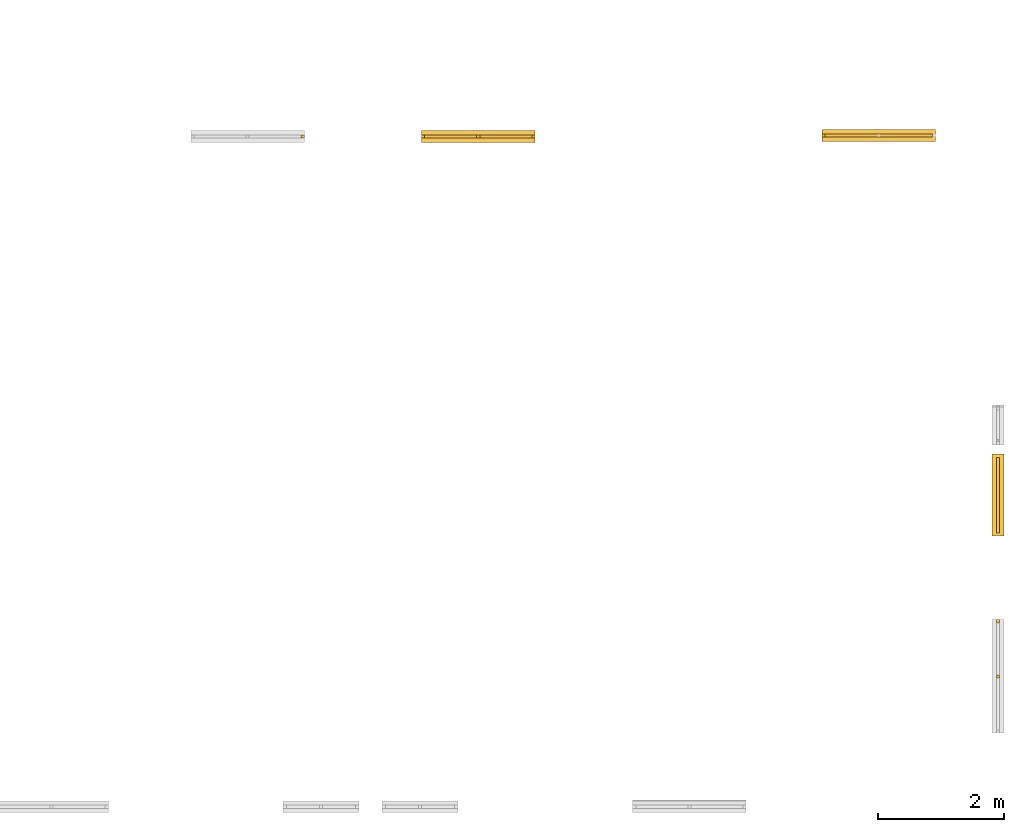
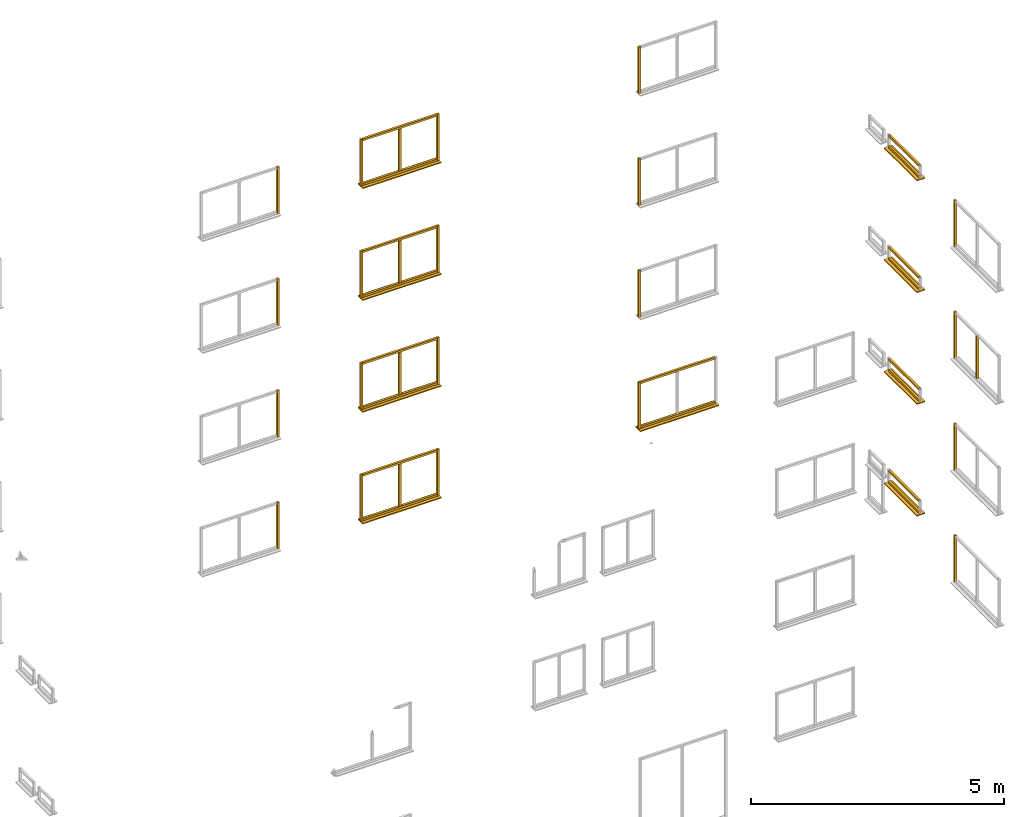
# Not in any storey, part 16 of 22: 52 windows.
"""IFC2X3 model written with IfcOpenShell, lengths in metres."""

from ifc_helpers import new_model, si_unit, frame, origin, place, context, project, faceted_brep, element, save


model = new_model("IFC2X3")

# Units and contexts
model_context = context("Model", 3, precision=1e-06, world=origin())
ifc_project = project(units=[si_unit("LENGTHUNIT", "METRE"), si_unit("PLANEANGLEUNIT", "RADIAN")], contexts=[model_context])

# Windows
placement = place(None, origin())
window_1_placement = place(placement, frame((59.668499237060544, -2.754837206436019, 1.025), z_axis=(0.0, 0.0, 1.0), x_axis=(0.0, 1.0, 0.0)))
element("IfcWindow", 1, at=window_1_placement, Name="rightFrame", context=model_context, shape_type="Brep", body=[
    faceted_brep([(0.0, 0.05, 0.0), (0.05, 0.05, 0.0), (0.05, 0.0, 0.0), (0.0, 0.0, 0.0), (0.05, 0.0, 1.125), (0.05, 0.05, 1.125), (0.0, 0.05, 1.125), (0.0, 0.0, 1.125), (0.0, 0.05, 0.0), (0.0, 0.0, 0.0), (0.0, 0.0, 1.125), (0.0, 0.05, 1.125), (0.05, 0.05, 0.0), (0.0, 0.05, 0.0), (0.0, 0.05, 1.125), (0.05, 0.05, 1.125), (0.05, 0.0, 0.0), (0.05, 0.05, 0.0), (0.05, 0.05, 1.125), (0.05, 0.0, 1.125), (0.0, 0.0, 0.0), (0.05, 0.0, 0.0), (0.05, 0.0, 1.125), (0.0, 0.0, 1.125)], [[[0, 1, 2, 3]], [[4, 5, 6, 7]], [[8, 9, 10, 11]], [[12, 13, 14, 15]], [[16, 17, 18, 19]], [[20, 21, 22, 23]]]),
])
for number, where, z_axis, x_axis, name in (
    (2, (59.668499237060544, -1.329837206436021, 4.800000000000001), (0.0, 0.0, 1.0), (0.0, 1.0, 0.0), "topFrame"),
    (3, (59.668499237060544, -1.329837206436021, 4.535000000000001), (0.0, 0.0, 1.0), (0.0, 1.0, 0.0), "bottomFrame"),
):
    element("IfcWindow", number, at=place(placement, frame(where, z_axis=z_axis, x_axis=x_axis)), Name=name, context=model_context, shape_type="Brep", body=[
        faceted_brep([(0.0, 0.05, 0.0), (1.2, 0.05, 0.0), (1.2, 0.0, 0.0), (0.0, 0.0, 0.0), (1.2, 0.0, 0.05), (1.2, 0.05, 0.05), (0.0, 0.05, 0.05), (0.0, 0.0, 0.05), (0.0, 0.05, 0.0), (0.0, 0.0, 0.0), (0.0, 0.0, 0.05), (0.0, 0.05, 0.05), (1.2, 0.05, 0.0), (0.0, 0.05, 0.0), (0.0, 0.05, 0.05), (1.2, 0.05, 0.05), (1.2, 0.0, 0.0), (1.2, 0.05, 0.0), (1.2, 0.05, 0.05), (1.2, 0.0, 0.05), (0.0, 0.0, 0.0), (1.2, 0.0, 0.0), (1.2, 0.0, 0.05), (0.0, 0.0, 0.05)], [[[0, 1, 2, 3]], [[4, 5, 6, 7]], [[8, 9, 10, 11]], [[12, 13, 14, 15]], [[16, 17, 18, 19]], [[20, 21, 22, 23]]]),
    ])
for number, where, z_axis, x_axis, name in (
    (4, (50.54459868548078, 4.988577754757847, 3.725), (0.0, 0.0, 1.0), (-1.0, 0.0, 0.0), "rightFrame"),
    (5, (59.668499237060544, -2.754837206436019, 3.725), (0.0, 0.0, 1.0), (0.0, 1.0, 0.0), "rightFrame"),
):
    element("IfcWindow", number, at=place(placement, frame(where, z_axis=z_axis, x_axis=x_axis)), Name=name, context=model_context, shape_type="Brep", body=[
        faceted_brep([(0.0, 0.05, 0.0), (0.05, 0.05, 0.0), (0.05, 0.0, 0.0), (0.0, 0.0, 0.0), (0.05, 0.0, 1.125), (0.05, 0.05, 1.125), (0.0, 0.05, 1.125), (0.0, 0.0, 1.125), (0.0, 0.05, 0.0), (0.0, 0.0, 0.0), (0.0, 0.0, 1.125), (0.0, 0.05, 1.125), (0.05, 0.05, 0.0), (0.0, 0.05, 0.0), (0.0, 0.05, 1.125), (0.05, 0.05, 1.125), (0.05, 0.0, 0.0), (0.05, 0.05, 0.0), (0.05, 0.05, 1.125), (0.05, 0.0, 1.125), (0.0, 0.0, 0.0), (0.05, 0.0, 0.0), (0.05, 0.0, 1.125), (0.0, 0.0, 1.125)], [[[0, 1, 2, 3]], [[4, 5, 6, 7]], [[8, 9, 10, 11]], [[12, 13, 14, 15]], [[16, 17, 18, 19]], [[20, 21, 22, 23]]]),
    ])
window_2_placement = place(placement, frame((59.736999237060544, -1.379837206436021, 1.81), z_axis=(0.0, 0.0, 1.0), x_axis=(0.0, 1.0, 0.0)))
element("IfcWindow", 6, at=window_2_placement, Name="windowSill", context=model_context, shape_type="Brep", body=[
    faceted_brep([(0.0, 0.186999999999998, 0.0), (1.3, 0.186999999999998, 0.0), (1.3, 0.0, 0.0), (0.0, 0.0, 0.0), (1.3, 0.0, 0.025), (1.3, 0.186999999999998, 0.025), (0.0, 0.186999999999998, 0.025), (0.0, 0.0, 0.025), (0.0, 0.186999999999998, 0.0), (0.0, 0.0, 0.0), (0.0, 0.0, 0.025), (0.0, 0.186999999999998, 0.025), (1.3, 0.186999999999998, 0.0), (0.0, 0.186999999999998, 0.0), (0.0, 0.186999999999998, 0.025), (1.3, 0.186999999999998, 0.025), (1.3, 0.0, 0.0), (1.3, 0.186999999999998, 0.0), (1.3, 0.186999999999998, 0.025), (1.3, 0.0, 0.025), (0.0, 0.0, 0.0), (1.3, 0.0, 0.0), (1.3, 0.0, 0.025), (0.0, 0.0, 0.025)], [[[0, 1, 2, 3]], [[4, 5, 6, 7]], [[8, 9, 10, 11]], [[12, 13, 14, 15]], [[16, 17, 18, 19]], [[20, 21, 22, 23]]]),
])
for number, where, z_axis, x_axis, name in (
    (7, (59.668499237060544, -1.329837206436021, 2.1), (0.0, 0.0, 1.0), (0.0, 1.0, 0.0), "topFrame"),
    (8, (59.668499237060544, -1.329837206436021, 1.835), (0.0, 0.0, 1.0), (0.0, 1.0, 0.0), "bottomFrame"),
):
    element("IfcWindow", number, at=place(placement, frame(where, z_axis=z_axis, x_axis=x_axis)), Name=name, context=model_context, shape_type="Brep", body=[
        faceted_brep([(0.0, 0.05, 0.0), (1.2, 0.05, 0.0), (1.2, 0.0, 0.0), (0.0, 0.0, 0.0), (1.2, 0.0, 0.05), (1.2, 0.05, 0.05), (0.0, 0.05, 0.05), (0.0, 0.0, 0.05), (0.0, 0.05, 0.0), (0.0, 0.0, 0.0), (0.0, 0.0, 0.05), (0.0, 0.05, 0.05), (1.2, 0.05, 0.0), (0.0, 0.05, 0.0), (0.0, 0.05, 0.05), (1.2, 0.05, 0.05), (1.2, 0.0, 0.0), (1.2, 0.05, 0.0), (1.2, 0.05, 0.05), (1.2, 0.0, 0.05), (0.0, 0.0, 0.0), (1.2, 0.0, 0.0), (1.2, 0.0, 0.05), (0.0, 0.0, 0.05)], [[[0, 1, 2, 3]], [[4, 5, 6, 7]], [[8, 9, 10, 11]], [[12, 13, 14, 15]], [[16, 17, 18, 19]], [[20, 21, 22, 23]]]),
    ])
window_3_placement = place(placement, frame((59.668499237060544, -2.754837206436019, 6.425000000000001), z_axis=(0.0, 0.0, 1.0), x_axis=(0.0, 1.0, 0.0)))
element("IfcWindow", 9, at=window_3_placement, Name="rightFrame", context=model_context, shape_type="Brep", body=[
    faceted_brep([(0.0, 0.05, 0.0), (0.05, 0.05, 0.0), (0.05, 0.0, 0.0), (0.0, 0.0, 0.0), (0.05, 0.0, 1.125), (0.05, 0.05, 1.125), (0.0, 0.05, 1.125), (0.0, 0.0, 1.125), (0.0, 0.05, 0.0), (0.0, 0.0, 0.0), (0.0, 0.0, 1.125), (0.0, 0.05, 1.125), (0.05, 0.05, 0.0), (0.0, 0.05, 0.0), (0.0, 0.05, 1.125), (0.05, 0.05, 1.125), (0.05, 0.0, 0.0), (0.05, 0.05, 0.0), (0.05, 0.05, 1.125), (0.05, 0.0, 1.125), (0.0, 0.0, 0.0), (0.05, 0.0, 0.0), (0.05, 0.0, 1.125), (0.0, 0.0, 1.125)], [[[0, 1, 2, 3]], [[4, 5, 6, 7]], [[8, 9, 10, 11]], [[12, 13, 14, 15]], [[16, 17, 18, 19]], [[20, 21, 22, 23]]]),
])
window_4_placement = place(placement, frame((59.736999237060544, -1.379837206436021, 4.510000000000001), z_axis=(0.0, 0.0, 1.0), x_axis=(0.0, 1.0, 0.0)))
element("IfcWindow", 10, at=window_4_placement, Name="windowSill", context=model_context, shape_type="Brep", body=[
    faceted_brep([(0.0, 0.186999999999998, 0.0), (1.3, 0.186999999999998, 0.0), (1.3, 0.0, 0.0), (0.0, 0.0, 0.0), (1.3, 0.0, 0.025), (1.3, 0.186999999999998, 0.025), (0.0, 0.186999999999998, 0.025), (0.0, 0.0, 0.025), (0.0, 0.186999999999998, 0.0), (0.0, 0.0, 0.0), (0.0, 0.0, 0.025), (0.0, 0.186999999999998, 0.025), (1.3, 0.186999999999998, 0.0), (0.0, 0.186999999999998, 0.0), (0.0, 0.186999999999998, 0.025), (1.3, 0.186999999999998, 0.025), (1.3, 0.0, 0.0), (1.3, 0.186999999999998, 0.0), (1.3, 0.186999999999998, 0.025), (1.3, 0.0, 0.025), (0.0, 0.0, 0.0), (1.3, 0.0, 0.0), (1.3, 0.0, 0.025), (0.0, 0.0, 0.025)], [[[0, 1, 2, 3]], [[4, 5, 6, 7]], [[8, 9, 10, 11]], [[12, 13, 14, 15]], [[16, 17, 18, 19]], [[20, 21, 22, 23]]]),
])
for number, where, z_axis, x_axis, name in (
    (11, (58.598999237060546, 5.001577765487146, 1.025), (0.0, 0.0, 1.0), (-1.0, 0.0, 0.0), "bottomFrame"),
    (12, (58.598999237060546, 5.001577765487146, 2.1), (0.0, 0.0, 1.0), (-1.0, 0.0, 0.0), "topFrame"),
):
    element("IfcWindow", number, at=place(placement, frame(where, z_axis=z_axis, x_axis=x_axis)), Name=name, context=model_context, shape_type="Brep", body=[
        faceted_brep([(0.0, 0.05, 0.0), (1.7, 0.05, 0.0), (1.7, 0.0, 0.0), (0.0, 0.0, 0.0), (1.7, 0.0, 0.05), (1.7, 0.05, 0.05), (0.0, 0.05, 0.05), (0.0, 0.0, 0.05), (0.0, 0.05, 0.0), (0.0, 0.0, 0.0), (0.0, 0.0, 0.05), (0.0, 0.05, 0.05), (1.7, 0.05, 0.0), (0.0, 0.05, 0.0), (0.0, 0.05, 0.05), (1.7, 0.05, 0.05), (1.7, 0.0, 0.0), (1.7, 0.05, 0.0), (1.7, 0.05, 0.05), (1.7, 0.0, 0.05), (0.0, 0.0, 0.0), (1.7, 0.0, 0.0), (1.7, 0.0, 0.05), (0.0, 0.0, 0.05)], [[[0, 1, 2, 3]], [[4, 5, 6, 7]], [[8, 9, 10, 11]], [[12, 13, 14, 15]], [[16, 17, 18, 19]], [[20, 21, 22, 23]]]),
    ])
window_5_placement = place(placement, frame((56.89899923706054, 5.001577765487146, 1.025), z_axis=(0.0, 0.0, 1.0), x_axis=(-1.0, 0.0, 0.0)))
element("IfcWindow", 13, at=window_5_placement, Name="rightFrame", context=model_context, shape_type="Brep", body=[
    faceted_brep([(0.0, 0.05, 0.0), (0.05, 0.05, 0.0), (0.05, 0.0, 0.0), (0.0, 0.0, 0.0), (0.05, 0.0, 1.125), (0.05, 0.05, 1.125), (0.0, 0.05, 1.125), (0.0, 0.0, 1.125), (0.0, 0.05, 0.0), (0.0, 0.0, 0.0), (0.0, 0.0, 1.125), (0.0, 0.05, 1.125), (0.05, 0.05, 0.0), (0.0, 0.05, 0.0), (0.0, 0.05, 1.125), (0.05, 0.05, 1.125), (0.05, 0.0, 0.0), (0.05, 0.05, 0.0), (0.05, 0.05, 1.125), (0.05, 0.0, 1.125), (0.0, 0.0, 0.0), (0.05, 0.0, 0.0), (0.05, 0.0, 1.125), (0.0, 0.0, 1.125)], [[[0, 1, 2, 3]], [[4, 5, 6, 7]], [[8, 9, 10, 11]], [[12, 13, 14, 15]], [[16, 17, 18, 19]], [[20, 21, 22, 23]]]),
])
window_6_placement = place(placement, frame((58.64899923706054, 5.070077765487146, 1.0), z_axis=(0.0, 0.0, 1.0), x_axis=(-1.0, 0.0, 0.0)))
element("IfcWindow", 14, at=window_6_placement, Name="windowSill", context=model_context, shape_type="Brep", body=[
    faceted_brep([(0.0, 0.187, 0.0), (1.8, 0.187, 0.0), (1.8, 0.0, 0.0), (0.0, 0.0, 0.0), (1.8, 0.0, 0.025), (1.8, 0.187, 0.025), (0.0, 0.187, 0.025), (0.0, 0.0, 0.025), (0.0, 0.187, 0.0), (0.0, 0.0, 0.0), (0.0, 0.0, 0.025), (0.0, 0.187, 0.025), (1.8, 0.187, 0.0), (0.0, 0.187, 0.0), (0.0, 0.187, 0.025), (1.8, 0.187, 0.025), (1.8, 0.0, 0.0), (1.8, 0.187, 0.0), (1.8, 0.187, 0.025), (1.8, 0.0, 0.025), (0.0, 0.0, 0.0), (1.8, 0.0, 0.0), (1.8, 0.0, 0.025), (0.0, 0.0, 0.025)], [[[0, 1, 2, 3]], [[4, 5, 6, 7]], [[8, 9, 10, 11]], [[12, 13, 14, 15]], [[16, 17, 18, 19]], [[20, 21, 22, 23]]]),
])
window_7_placement = place(placement, frame((51.41959868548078, 4.988577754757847, 9.175), z_axis=(0.0, 0.0, 1.0), x_axis=(-1.0, 0.0, 0.0)))
element("IfcWindow", 15, at=window_7_placement, Name="verticalBar", context=model_context, shape_type="Brep", body=[
    faceted_brep([(0.0, 0.05, 0.0), (0.05, 0.05, 0.0), (0.05, 0.0, 0.0), (0.0, 0.0, 0.0), (0.05, 0.0, 1.025), (0.05, 0.05, 1.025), (0.0, 0.05, 1.025), (0.0, 0.0, 1.025), (0.0, 0.05, 0.0), (0.0, 0.0, 0.0), (0.0, 0.0, 1.025), (0.0, 0.05, 1.025), (0.05, 0.05, 0.0), (0.0, 0.05, 0.0), (0.0, 0.05, 1.025), (0.05, 0.05, 1.025), (0.05, 0.0, 0.0), (0.05, 0.05, 0.0), (0.05, 0.05, 1.025), (0.05, 0.0, 1.025), (0.0, 0.0, 0.0), (0.05, 0.0, 0.0), (0.05, 0.0, 1.025), (0.0, 0.0, 1.025)], [[[0, 1, 2, 3]], [[4, 5, 6, 7]], [[8, 9, 10, 11]], [[12, 13, 14, 15]], [[16, 17, 18, 19]], [[20, 21, 22, 23]]]),
])
window_8_placement = place(placement, frame((56.89899923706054, 5.001577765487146, 3.725), z_axis=(0.0, 0.0, 1.0), x_axis=(-1.0, 0.0, 0.0)))
element("IfcWindow", 16, at=window_8_placement, Name="rightFrame", context=model_context, shape_type="Brep", body=[
    faceted_brep([(0.0, 0.05, 0.0), (0.05, 0.05, 0.0), (0.05, 0.0, 0.0), (0.0, 0.0, 0.0), (0.05, 0.0, 1.125), (0.05, 0.05, 1.125), (0.0, 0.05, 1.125), (0.0, 0.0, 1.125), (0.0, 0.05, 0.0), (0.0, 0.0, 0.0), (0.0, 0.0, 1.125), (0.0, 0.05, 1.125), (0.05, 0.05, 0.0), (0.0, 0.05, 0.0), (0.0, 0.05, 1.125), (0.05, 0.05, 1.125), (0.05, 0.0, 0.0), (0.05, 0.05, 0.0), (0.05, 0.05, 1.125), (0.05, 0.0, 1.125), (0.0, 0.0, 0.0), (0.05, 0.0, 0.0), (0.05, 0.0, 1.125), (0.0, 0.0, 1.125)], [[[0, 1, 2, 3]], [[4, 5, 6, 7]], [[8, 9, 10, 11]], [[12, 13, 14, 15]], [[16, 17, 18, 19]], [[20, 21, 22, 23]]]),
])
window_9_placement = place(placement, frame((59.736999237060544, -1.379837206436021, 9.910000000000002), z_axis=(0.0, 0.0, 1.0), x_axis=(0.0, 1.0, 0.0)))
element("IfcWindow", 17, at=window_9_placement, Name="windowSill", context=model_context, shape_type="Brep", body=[
    faceted_brep([(0.0, 0.186999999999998, 0.0), (1.3, 0.186999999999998, 0.0), (1.3, 0.0, 0.0), (0.0, 0.0, 0.0), (1.3, 0.0, 0.025), (1.3, 0.186999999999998, 0.025), (0.0, 0.186999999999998, 0.025), (0.0, 0.0, 0.025), (0.0, 0.186999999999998, 0.0), (0.0, 0.0, 0.0), (0.0, 0.0, 0.025), (0.0, 0.186999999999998, 0.025), (1.3, 0.186999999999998, 0.0), (0.0, 0.186999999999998, 0.0), (0.0, 0.186999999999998, 0.025), (1.3, 0.186999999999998, 0.025), (1.3, 0.0, 0.0), (1.3, 0.186999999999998, 0.0), (1.3, 0.186999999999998, 0.025), (1.3, 0.0, 0.025), (0.0, 0.0, 0.0), (1.3, 0.0, 0.0), (1.3, 0.0, 0.025), (0.0, 0.0, 0.025)], [[[0, 1, 2, 3]], [[4, 5, 6, 7]], [[8, 9, 10, 11]], [[12, 13, 14, 15]], [[16, 17, 18, 19]], [[20, 21, 22, 23]]]),
])
window_10_placement = place(placement, frame((56.89899923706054, 5.001577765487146, 6.425000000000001), z_axis=(0.0, 0.0, 1.0), x_axis=(-1.0, 0.0, 0.0)))
element("IfcWindow", 18, at=window_10_placement, Name="rightFrame", context=model_context, shape_type="Brep", body=[
    faceted_brep([(0.0, 0.05, 0.0), (0.05, 0.05, 0.0), (0.05, 0.0, 0.0), (0.0, 0.0, 0.0), (0.05, 0.0, 1.125), (0.05, 0.05, 1.125), (0.0, 0.05, 1.125), (0.0, 0.0, 1.125), (0.0, 0.05, 0.0), (0.0, 0.0, 0.0), (0.0, 0.0, 1.125), (0.0, 0.05, 1.125), (0.05, 0.05, 0.0), (0.0, 0.05, 0.0), (0.0, 0.05, 1.125), (0.05, 0.05, 1.125), (0.05, 0.0, 0.0), (0.05, 0.05, 0.0), (0.05, 0.05, 1.125), (0.05, 0.0, 1.125), (0.0, 0.0, 0.0), (0.05, 0.0, 0.0), (0.05, 0.0, 1.125), (0.0, 0.0, 1.125)], [[[0, 1, 2, 3]], [[4, 5, 6, 7]], [[8, 9, 10, 11]], [[12, 13, 14, 15]], [[16, 17, 18, 19]], [[20, 21, 22, 23]]]),
])
for number, where, z_axis, x_axis, name in (
    (19, (59.668499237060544, -1.32983720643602, 10.200000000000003), (0.0, 0.0, 1.0), (0.0, 1.0, 0.0), "topFrame"),
    (20, (59.668499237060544, -1.32983720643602, 9.935000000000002), (0.0, 0.0, 1.0), (0.0, 1.0, 0.0), "bottomFrame"),
):
    element("IfcWindow", number, at=place(placement, frame(where, z_axis=z_axis, x_axis=x_axis)), Name=name, context=model_context, shape_type="Brep", body=[
        faceted_brep([(0.0, 0.05, 0.0), (1.2, 0.05, 0.0), (1.2, 0.0, 0.0), (0.0, 0.0, 0.0), (1.2, 0.0, 0.05), (1.2, 0.05, 0.05), (0.0, 0.05, 0.05), (0.0, 0.0, 0.05), (0.0, 0.05, 0.0), (0.0, 0.0, 0.0), (0.0, 0.0, 0.05), (0.0, 0.05, 0.05), (1.2, 0.05, 0.0), (0.0, 0.05, 0.0), (0.0, 0.05, 0.05), (1.2, 0.05, 0.05), (1.2, 0.0, 0.0), (1.2, 0.05, 0.0), (1.2, 0.05, 0.05), (1.2, 0.0, 0.05), (0.0, 0.0, 0.0), (1.2, 0.0, 0.0), (1.2, 0.0, 0.05), (0.0, 0.0, 0.05)], [[[0, 1, 2, 3]], [[4, 5, 6, 7]], [[8, 9, 10, 11]], [[12, 13, 14, 15]], [[16, 17, 18, 19]], [[20, 21, 22, 23]]]),
    ])
for number, where, z_axis, x_axis, name in (
    (21, (56.89899923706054, 5.001577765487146, 9.125000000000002), (0.0, 0.0, 1.0), (-1.0, 0.0, 0.0), "rightFrame"),
    (22, (59.668499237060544, -2.754837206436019, 9.125000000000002), (0.0, 0.0, 1.0), (0.0, 1.0, 0.0), "rightFrame"),
    (23, (48.634598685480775, 4.988577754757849, 1.025), (0.0, 0.0, 1.0), (-1.0, 0.0, 0.0), "leftFrame"),
):
    element("IfcWindow", number, at=place(placement, frame(where, z_axis=z_axis, x_axis=x_axis)), Name=name, context=model_context, shape_type="Brep", body=[
        faceted_brep([(0.0, 0.05, 0.0), (0.05, 0.05, 0.0), (0.05, 0.0, 0.0), (0.0, 0.0, 0.0), (0.05, 0.0, 1.125), (0.05, 0.05, 1.125), (0.0, 0.05, 1.125), (0.0, 0.0, 1.125), (0.0, 0.05, 0.0), (0.0, 0.0, 0.0), (0.0, 0.0, 1.125), (0.0, 0.05, 1.125), (0.05, 0.05, 0.0), (0.0, 0.05, 0.0), (0.0, 0.05, 1.125), (0.05, 0.05, 1.125), (0.05, 0.0, 0.0), (0.05, 0.05, 0.0), (0.05, 0.05, 1.125), (0.05, 0.0, 1.125), (0.0, 0.0, 0.0), (0.05, 0.0, 0.0), (0.05, 0.0, 1.125), (0.0, 0.0, 1.125)], [[[0, 1, 2, 3]], [[4, 5, 6, 7]], [[8, 9, 10, 11]], [[12, 13, 14, 15]], [[16, 17, 18, 19]], [[20, 21, 22, 23]]]),
    ])
for number, where, z_axis, x_axis, name in (
    (24, (52.24459868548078, 4.988577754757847, 1.025), (0.0, 0.0, 1.0), (-1.0, 0.0, 0.0), "bottomFrame"),
    (25, (52.24459868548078, 4.988577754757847, 2.1), (0.0, 0.0, 1.0), (-1.0, 0.0, 0.0), "topFrame"),
):
    element("IfcWindow", number, at=place(placement, frame(where, z_axis=z_axis, x_axis=x_axis)), Name=name, context=model_context, shape_type="Brep", body=[
        faceted_brep([(0.0, 0.05, 0.0), (1.7, 0.05, 0.0), (1.7, 0.0, 0.0), (0.0, 0.0, 0.0), (1.7, 0.0, 0.05), (1.7, 0.05, 0.05), (0.0, 0.05, 0.05), (0.0, 0.0, 0.05), (0.0, 0.05, 0.0), (0.0, 0.0, 0.0), (0.0, 0.0, 0.05), (0.0, 0.05, 0.05), (1.7, 0.05, 0.0), (0.0, 0.05, 0.0), (0.0, 0.05, 0.05), (1.7, 0.05, 0.05), (1.7, 0.0, 0.0), (1.7, 0.05, 0.0), (1.7, 0.05, 0.05), (1.7, 0.0, 0.05), (0.0, 0.0, 0.0), (1.7, 0.0, 0.0), (1.7, 0.0, 0.05), (0.0, 0.0, 0.05)], [[[0, 1, 2, 3]], [[4, 5, 6, 7]], [[8, 9, 10, 11]], [[12, 13, 14, 15]], [[16, 17, 18, 19]], [[20, 21, 22, 23]]]),
    ])
for number, where, z_axis, x_axis, name in (
    (26, (52.29459868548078, 4.988577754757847, 1.025), (0.0, 0.0, 1.0), (-1.0, 0.0, 0.0), "leftFrame"),
    (27, (50.54459868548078, 4.988577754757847, 1.025), (0.0, 0.0, 1.0), (-1.0, 0.0, 0.0), "rightFrame"),
):
    element("IfcWindow", number, at=place(placement, frame(where, z_axis=z_axis, x_axis=x_axis)), Name=name, context=model_context, shape_type="Brep", body=[
        faceted_brep([(0.0, 0.05, 0.0), (0.05, 0.05, 0.0), (0.05, 0.0, 0.0), (0.0, 0.0, 0.0), (0.05, 0.0, 1.125), (0.05, 0.05, 1.125), (0.0, 0.05, 1.125), (0.0, 0.0, 1.125), (0.0, 0.05, 0.0), (0.0, 0.0, 0.0), (0.0, 0.0, 1.125), (0.0, 0.05, 1.125), (0.05, 0.05, 0.0), (0.0, 0.05, 0.0), (0.0, 0.05, 1.125), (0.05, 0.05, 1.125), (0.05, 0.0, 0.0), (0.05, 0.05, 0.0), (0.05, 0.05, 1.125), (0.05, 0.0, 1.125), (0.0, 0.0, 0.0), (0.05, 0.0, 0.0), (0.05, 0.0, 1.125), (0.0, 0.0, 1.125)], [[[0, 1, 2, 3]], [[4, 5, 6, 7]], [[8, 9, 10, 11]], [[12, 13, 14, 15]], [[16, 17, 18, 19]], [[20, 21, 22, 23]]]),
    ])
window_11_placement = place(placement, frame((52.29459868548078, 5.057077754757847, 1.0), z_axis=(0.0, 0.0, 1.0), x_axis=(-1.0, 0.0, 0.0)))
element("IfcWindow", 28, at=window_11_placement, Name="windowSill", context=model_context, shape_type="Brep", body=[
    faceted_brep([(0.0, 0.187, 0.0), (1.8, 0.187, 0.0), (1.8, 0.0, 0.0), (0.0, 0.0, 0.0), (1.8, 0.0, 0.025), (1.8, 0.187, 0.025), (0.0, 0.187, 0.025), (0.0, 0.0, 0.025), (0.0, 0.187, 0.0), (0.0, 0.0, 0.0), (0.0, 0.0, 0.025), (0.0, 0.187, 0.025), (1.8, 0.187, 0.0), (0.0, 0.187, 0.0), (0.0, 0.187, 0.025), (1.8, 0.187, 0.025), (1.8, 0.0, 0.0), (1.8, 0.187, 0.0), (1.8, 0.187, 0.025), (1.8, 0.0, 0.025), (0.0, 0.0, 0.0), (1.8, 0.0, 0.0), (1.8, 0.0, 0.025), (0.0, 0.0, 0.025)], [[[0, 1, 2, 3]], [[4, 5, 6, 7]], [[8, 9, 10, 11]], [[12, 13, 14, 15]], [[16, 17, 18, 19]], [[20, 21, 22, 23]]]),
])
window_12_placement = place(placement, frame((51.41959868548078, 4.988577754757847, 1.075), z_axis=(0.0, 0.0, 1.0), x_axis=(-1.0, 0.0, 0.0)))
element("IfcWindow", 29, at=window_12_placement, Name="verticalBar", context=model_context, shape_type="Brep", body=[
    faceted_brep([(0.0, 0.05, 0.0), (0.05, 0.05, 0.0), (0.05, 0.0, 0.0), (0.0, 0.0, 0.0), (0.05, 0.0, 1.025), (0.05, 0.05, 1.025), (0.0, 0.05, 1.025), (0.0, 0.0, 1.025), (0.0, 0.05, 0.0), (0.0, 0.0, 0.0), (0.0, 0.0, 1.025), (0.0, 0.05, 1.025), (0.05, 0.05, 0.0), (0.0, 0.05, 0.0), (0.0, 0.05, 1.025), (0.05, 0.05, 1.025), (0.05, 0.0, 0.0), (0.05, 0.05, 0.0), (0.05, 0.05, 1.025), (0.05, 0.0, 1.025), (0.0, 0.0, 0.0), (0.05, 0.0, 0.0), (0.05, 0.0, 1.025), (0.0, 0.0, 1.025)], [[[0, 1, 2, 3]], [[4, 5, 6, 7]], [[8, 9, 10, 11]], [[12, 13, 14, 15]], [[16, 17, 18, 19]], [[20, 21, 22, 23]]]),
])
window_13_placement = place(placement, frame((48.634598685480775, 4.988577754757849, 3.725), z_axis=(0.0, 0.0, 1.0), x_axis=(-1.0, 0.0, 0.0)))
element("IfcWindow", 30, at=window_13_placement, Name="leftFrame", context=model_context, shape_type="Brep", body=[
    faceted_brep([(0.0, 0.05, 0.0), (0.05, 0.05, 0.0), (0.05, 0.0, 0.0), (0.0, 0.0, 0.0), (0.05, 0.0, 1.125), (0.05, 0.05, 1.125), (0.0, 0.05, 1.125), (0.0, 0.0, 1.125), (0.0, 0.05, 0.0), (0.0, 0.0, 0.0), (0.0, 0.0, 1.125), (0.0, 0.05, 1.125), (0.05, 0.05, 0.0), (0.0, 0.05, 0.0), (0.0, 0.05, 1.125), (0.05, 0.05, 1.125), (0.05, 0.0, 0.0), (0.05, 0.05, 0.0), (0.05, 0.05, 1.125), (0.05, 0.0, 1.125), (0.0, 0.0, 0.0), (0.05, 0.0, 0.0), (0.05, 0.0, 1.125), (0.0, 0.0, 1.125)], [[[0, 1, 2, 3]], [[4, 5, 6, 7]], [[8, 9, 10, 11]], [[12, 13, 14, 15]], [[16, 17, 18, 19]], [[20, 21, 22, 23]]]),
])
window_14_placement = place(placement, frame((51.41959868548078, 4.988577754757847, 3.775), z_axis=(0.0, 0.0, 1.0), x_axis=(-1.0, 0.0, 0.0)))
element("IfcWindow", 31, at=window_14_placement, Name="verticalBar", context=model_context, shape_type="Brep", body=[
    faceted_brep([(0.0, 0.05, 0.0), (0.05, 0.05, 0.0), (0.05, 0.0, 0.0), (0.0, 0.0, 0.0), (0.05, 0.0, 1.025), (0.05, 0.05, 1.025), (0.0, 0.05, 1.025), (0.0, 0.0, 1.025), (0.0, 0.05, 0.0), (0.0, 0.0, 0.0), (0.0, 0.0, 1.025), (0.0, 0.05, 1.025), (0.05, 0.05, 0.0), (0.0, 0.05, 0.0), (0.0, 0.05, 1.025), (0.05, 0.05, 1.025), (0.05, 0.0, 0.0), (0.05, 0.05, 0.0), (0.05, 0.05, 1.025), (0.05, 0.0, 1.025), (0.0, 0.0, 0.0), (0.05, 0.0, 0.0), (0.05, 0.0, 1.025), (0.0, 0.0, 1.025)], [[[0, 1, 2, 3]], [[4, 5, 6, 7]], [[8, 9, 10, 11]], [[12, 13, 14, 15]], [[16, 17, 18, 19]], [[20, 21, 22, 23]]]),
])
window_15_placement = place(placement, frame((52.29459868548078, 5.057077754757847, 3.7), z_axis=(0.0, 0.0, 1.0), x_axis=(-1.0, 0.0, 0.0)))
element("IfcWindow", 32, at=window_15_placement, Name="windowSill", context=model_context, shape_type="Brep", body=[
    faceted_brep([(0.0, 0.187, 0.0), (1.8, 0.187, 0.0), (1.8, 0.0, 0.0), (0.0, 0.0, 0.0), (1.8, 0.0, 0.025), (1.8, 0.187, 0.025), (0.0, 0.187, 0.025), (0.0, 0.0, 0.025), (0.0, 0.187, 0.0), (0.0, 0.0, 0.0), (0.0, 0.0, 0.025), (0.0, 0.187, 0.025), (1.8, 0.187, 0.0), (0.0, 0.187, 0.0), (0.0, 0.187, 0.025), (1.8, 0.187, 0.025), (1.8, 0.0, 0.0), (1.8, 0.187, 0.0), (1.8, 0.187, 0.025), (1.8, 0.0, 0.025), (0.0, 0.0, 0.0), (1.8, 0.0, 0.0), (1.8, 0.0, 0.025), (0.0, 0.0, 0.025)], [[[0, 1, 2, 3]], [[4, 5, 6, 7]], [[8, 9, 10, 11]], [[12, 13, 14, 15]], [[16, 17, 18, 19]], [[20, 21, 22, 23]]]),
])
window_16_placement = place(placement, frame((52.29459868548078, 4.988577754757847, 3.725), z_axis=(0.0, 0.0, 1.0), x_axis=(-1.0, 0.0, 0.0)))
element("IfcWindow", 33, at=window_16_placement, Name="leftFrame", context=model_context, shape_type="Brep", body=[
    faceted_brep([(0.0, 0.05, 0.0), (0.05, 0.05, 0.0), (0.05, 0.0, 0.0), (0.0, 0.0, 0.0), (0.05, 0.0, 1.125), (0.05, 0.05, 1.125), (0.0, 0.05, 1.125), (0.0, 0.0, 1.125), (0.0, 0.05, 0.0), (0.0, 0.0, 0.0), (0.0, 0.0, 1.125), (0.0, 0.05, 1.125), (0.05, 0.05, 0.0), (0.0, 0.05, 0.0), (0.0, 0.05, 1.125), (0.05, 0.05, 1.125), (0.05, 0.0, 0.0), (0.05, 0.05, 0.0), (0.05, 0.05, 1.125), (0.05, 0.0, 1.125), (0.0, 0.0, 0.0), (0.05, 0.0, 0.0), (0.05, 0.0, 1.125), (0.0, 0.0, 1.125)], [[[0, 1, 2, 3]], [[4, 5, 6, 7]], [[8, 9, 10, 11]], [[12, 13, 14, 15]], [[16, 17, 18, 19]], [[20, 21, 22, 23]]]),
])
for number, where, z_axis, x_axis, name in (
    (34, (52.24459868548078, 4.988577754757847, 4.8), (0.0, 0.0, 1.0), (-1.0, 0.0, 0.0), "topFrame"),
    (35, (52.24459868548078, 4.988577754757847, 3.725), (0.0, 0.0, 1.0), (-1.0, 0.0, 0.0), "bottomFrame"),
    (36, (52.24459868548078, 4.988577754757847, 6.425000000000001), (0.0, 0.0, 1.0), (-1.0, 0.0, 0.0), "bottomFrame"),
):
    element("IfcWindow", number, at=place(placement, frame(where, z_axis=z_axis, x_axis=x_axis)), Name=name, context=model_context, shape_type="Brep", body=[
        faceted_brep([(0.0, 0.05, 0.0), (1.7, 0.05, 0.0), (1.7, 0.0, 0.0), (0.0, 0.0, 0.0), (1.7, 0.0, 0.05), (1.7, 0.05, 0.05), (0.0, 0.05, 0.05), (0.0, 0.0, 0.05), (0.0, 0.05, 0.0), (0.0, 0.0, 0.0), (0.0, 0.0, 0.05), (0.0, 0.05, 0.05), (1.7, 0.05, 0.0), (0.0, 0.05, 0.0), (0.0, 0.05, 0.05), (1.7, 0.05, 0.05), (1.7, 0.0, 0.0), (1.7, 0.05, 0.0), (1.7, 0.05, 0.05), (1.7, 0.0, 0.05), (0.0, 0.0, 0.0), (1.7, 0.0, 0.0), (1.7, 0.0, 0.05), (0.0, 0.0, 0.05)], [[[0, 1, 2, 3]], [[4, 5, 6, 7]], [[8, 9, 10, 11]], [[12, 13, 14, 15]], [[16, 17, 18, 19]], [[20, 21, 22, 23]]]),
    ])
window_17_placement = place(placement, frame((52.29459868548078, 4.988577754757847, 6.425000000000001), z_axis=(0.0, 0.0, 1.0), x_axis=(-1.0, 0.0, 0.0)))
element("IfcWindow", 37, at=window_17_placement, Name="leftFrame", context=model_context, shape_type="Brep", body=[
    faceted_brep([(0.0, 0.05, 0.0), (0.05, 0.05, 0.0), (0.05, 0.0, 0.0), (0.0, 0.0, 0.0), (0.05, 0.0, 1.125), (0.05, 0.05, 1.125), (0.0, 0.05, 1.125), (0.0, 0.0, 1.125), (0.0, 0.05, 0.0), (0.0, 0.0, 0.0), (0.0, 0.0, 1.125), (0.0, 0.05, 1.125), (0.05, 0.05, 0.0), (0.0, 0.05, 0.0), (0.0, 0.05, 1.125), (0.05, 0.05, 1.125), (0.05, 0.0, 0.0), (0.05, 0.05, 0.0), (0.05, 0.05, 1.125), (0.05, 0.0, 1.125), (0.0, 0.0, 0.0), (0.05, 0.0, 0.0), (0.05, 0.0, 1.125), (0.0, 0.0, 1.125)], [[[0, 1, 2, 3]], [[4, 5, 6, 7]], [[8, 9, 10, 11]], [[12, 13, 14, 15]], [[16, 17, 18, 19]], [[20, 21, 22, 23]]]),
])
window_18_placement = place(placement, frame((52.24459868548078, 4.988577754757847, 7.5), z_axis=(0.0, 0.0, 1.0), x_axis=(-1.0, 0.0, 0.0)))
element("IfcWindow", 38, at=window_18_placement, Name="topFrame", context=model_context, shape_type="Brep", body=[
    faceted_brep([(0.0, 0.05, 0.0), (1.7, 0.05, 0.0), (1.7, 0.0, 0.0), (0.0, 0.0, 0.0), (1.7, 0.0, 0.05), (1.7, 0.05, 0.05), (0.0, 0.05, 0.05), (0.0, 0.0, 0.05), (0.0, 0.05, 0.0), (0.0, 0.0, 0.0), (0.0, 0.0, 0.05), (0.0, 0.05, 0.05), (1.7, 0.05, 0.0), (0.0, 0.05, 0.0), (0.0, 0.05, 0.05), (1.7, 0.05, 0.05), (1.7, 0.0, 0.0), (1.7, 0.05, 0.0), (1.7, 0.05, 0.05), (1.7, 0.0, 0.05), (0.0, 0.0, 0.0), (1.7, 0.0, 0.0), (1.7, 0.0, 0.05), (0.0, 0.0, 0.05)], [[[0, 1, 2, 3]], [[4, 5, 6, 7]], [[8, 9, 10, 11]], [[12, 13, 14, 15]], [[16, 17, 18, 19]], [[20, 21, 22, 23]]]),
])
window_19_placement = place(placement, frame((52.29459868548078, 5.057077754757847, 6.4), z_axis=(0.0, 0.0, 1.0), x_axis=(-1.0, 0.0, 0.0)))
element("IfcWindow", 39, at=window_19_placement, Name="windowSill", context=model_context, shape_type="Brep", body=[
    faceted_brep([(0.0, 0.187, 0.0), (1.8, 0.187, 0.0), (1.8, 0.0, 0.0), (0.0, 0.0, 0.0), (1.8, 0.0, 0.025), (1.8, 0.187, 0.025), (0.0, 0.187, 0.025), (0.0, 0.0, 0.025), (0.0, 0.187, 0.0), (0.0, 0.0, 0.0), (0.0, 0.0, 0.025), (0.0, 0.187, 0.025), (1.8, 0.187, 0.0), (0.0, 0.187, 0.0), (0.0, 0.187, 0.025), (1.8, 0.187, 0.025), (1.8, 0.0, 0.0), (1.8, 0.187, 0.0), (1.8, 0.187, 0.025), (1.8, 0.0, 0.025), (0.0, 0.0, 0.0), (1.8, 0.0, 0.0), (1.8, 0.0, 0.025), (0.0, 0.0, 0.025)], [[[0, 1, 2, 3]], [[4, 5, 6, 7]], [[8, 9, 10, 11]], [[12, 13, 14, 15]], [[16, 17, 18, 19]], [[20, 21, 22, 23]]]),
])
window_20_placement = place(placement, frame((50.54459868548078, 4.988577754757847, 6.425000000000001), z_axis=(0.0, 0.0, 1.0), x_axis=(-1.0, 0.0, 0.0)))
element("IfcWindow", 40, at=window_20_placement, Name="rightFrame", context=model_context, shape_type="Brep", body=[
    faceted_brep([(0.0, 0.05, 0.0), (0.05, 0.05, 0.0), (0.05, 0.0, 0.0), (0.0, 0.0, 0.0), (0.05, 0.0, 1.125), (0.05, 0.05, 1.125), (0.0, 0.05, 1.125), (0.0, 0.0, 1.125), (0.0, 0.05, 0.0), (0.0, 0.0, 0.0), (0.0, 0.0, 1.125), (0.0, 0.05, 1.125), (0.05, 0.05, 0.0), (0.0, 0.05, 0.0), (0.0, 0.05, 1.125), (0.05, 0.05, 1.125), (0.05, 0.0, 0.0), (0.05, 0.05, 0.0), (0.05, 0.05, 1.125), (0.05, 0.0, 1.125), (0.0, 0.0, 0.0), (0.05, 0.0, 0.0), (0.05, 0.0, 1.125), (0.0, 0.0, 1.125)], [[[0, 1, 2, 3]], [[4, 5, 6, 7]], [[8, 9, 10, 11]], [[12, 13, 14, 15]], [[16, 17, 18, 19]], [[20, 21, 22, 23]]]),
])
window_21_placement = place(placement, frame((51.41959868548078, 4.988577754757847, 6.475000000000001), z_axis=(0.0, 0.0, 1.0), x_axis=(-1.0, 0.0, 0.0)))
element("IfcWindow", 41, at=window_21_placement, Name="verticalBar", context=model_context, shape_type="Brep", body=[
    faceted_brep([(0.0, 0.05, 0.0), (0.05, 0.05, 0.0), (0.05, 0.0, 0.0), (0.0, 0.0, 0.0), (0.05, 0.0, 1.025), (0.05, 0.05, 1.025), (0.0, 0.05, 1.025), (0.0, 0.0, 1.025), (0.0, 0.05, 0.0), (0.0, 0.0, 0.0), (0.0, 0.0, 1.025), (0.0, 0.05, 1.025), (0.05, 0.05, 0.0), (0.0, 0.05, 0.0), (0.0, 0.05, 1.025), (0.05, 0.05, 1.025), (0.05, 0.0, 0.0), (0.05, 0.05, 0.0), (0.05, 0.05, 1.025), (0.05, 0.0, 1.025), (0.0, 0.0, 0.0), (0.05, 0.0, 0.0), (0.05, 0.0, 1.025), (0.0, 0.0, 1.025)], [[[0, 1, 2, 3]], [[4, 5, 6, 7]], [[8, 9, 10, 11]], [[12, 13, 14, 15]], [[16, 17, 18, 19]], [[20, 21, 22, 23]]]),
])
for number, where, z_axis, x_axis, name in (
    (42, (48.634598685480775, 4.98857775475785, 6.425000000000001), (0.0, 0.0, 1.0), (-1.0, 0.0, 0.0), "leftFrame"),
    (43, (48.634598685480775, 4.988577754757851, 9.125000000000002), (0.0, 0.0, 1.0), (-1.0, 0.0, 0.0), "leftFrame"),
    (44, (50.54459868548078, 4.988577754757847, 9.125000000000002), (0.0, 0.0, 1.0), (-1.0, 0.0, 0.0), "rightFrame"),
):
    element("IfcWindow", number, at=place(placement, frame(where, z_axis=z_axis, x_axis=x_axis)), Name=name, context=model_context, shape_type="Brep", body=[
        faceted_brep([(0.0, 0.05, 0.0), (0.05, 0.05, 0.0), (0.05, 0.0, 0.0), (0.0, 0.0, 0.0), (0.05, 0.0, 1.125), (0.05, 0.05, 1.125), (0.0, 0.05, 1.125), (0.0, 0.0, 1.125), (0.0, 0.05, 0.0), (0.0, 0.0, 0.0), (0.0, 0.0, 1.125), (0.0, 0.05, 1.125), (0.05, 0.05, 0.0), (0.0, 0.05, 0.0), (0.0, 0.05, 1.125), (0.05, 0.05, 1.125), (0.05, 0.0, 0.0), (0.05, 0.05, 0.0), (0.05, 0.05, 1.125), (0.05, 0.0, 1.125), (0.0, 0.0, 0.0), (0.05, 0.0, 0.0), (0.05, 0.0, 1.125), (0.0, 0.0, 1.125)], [[[0, 1, 2, 3]], [[4, 5, 6, 7]], [[8, 9, 10, 11]], [[12, 13, 14, 15]], [[16, 17, 18, 19]], [[20, 21, 22, 23]]]),
    ])
window_22_placement = place(placement, frame((52.29459868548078, 5.057077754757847, 9.100000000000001), z_axis=(0.0, 0.0, 1.0), x_axis=(-1.0, 0.0, 0.0)))
element("IfcWindow", 45, at=window_22_placement, Name="windowSill", context=model_context, shape_type="Brep", body=[
    faceted_brep([(0.0, 0.187, 0.0), (1.8, 0.187, 0.0), (1.8, 0.0, 0.0), (0.0, 0.0, 0.0), (1.8, 0.0, 0.025), (1.8, 0.187, 0.025), (0.0, 0.187, 0.025), (0.0, 0.0, 0.025), (0.0, 0.187, 0.0), (0.0, 0.0, 0.0), (0.0, 0.0, 0.025), (0.0, 0.187, 0.025), (1.8, 0.187, 0.0), (0.0, 0.187, 0.0), (0.0, 0.187, 0.025), (1.8, 0.187, 0.025), (1.8, 0.0, 0.0), (1.8, 0.187, 0.0), (1.8, 0.187, 0.025), (1.8, 0.0, 0.025), (0.0, 0.0, 0.0), (1.8, 0.0, 0.0), (1.8, 0.0, 0.025), (0.0, 0.0, 0.025)], [[[0, 1, 2, 3]], [[4, 5, 6, 7]], [[8, 9, 10, 11]], [[12, 13, 14, 15]], [[16, 17, 18, 19]], [[20, 21, 22, 23]]]),
])
window_23_placement = place(placement, frame((52.24459868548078, 4.988577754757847, 10.200000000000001), z_axis=(0.0, 0.0, 1.0), x_axis=(-1.0, 0.0, 0.0)))
element("IfcWindow", 46, at=window_23_placement, Name="topFrame", context=model_context, shape_type="Brep", body=[
    faceted_brep([(0.0, 0.05, 0.0), (1.7, 0.05, 0.0), (1.7, 0.0, 0.0), (0.0, 0.0, 0.0), (1.7, 0.0, 0.05), (1.7, 0.05, 0.05), (0.0, 0.05, 0.05), (0.0, 0.0, 0.05), (0.0, 0.05, 0.0), (0.0, 0.0, 0.0), (0.0, 0.0, 0.05), (0.0, 0.05, 0.05), (1.7, 0.05, 0.0), (0.0, 0.05, 0.0), (0.0, 0.05, 0.05), (1.7, 0.05, 0.05), (1.7, 0.0, 0.0), (1.7, 0.05, 0.0), (1.7, 0.05, 0.05), (1.7, 0.0, 0.05), (0.0, 0.0, 0.0), (1.7, 0.0, 0.0), (1.7, 0.0, 0.05), (0.0, 0.0, 0.05)], [[[0, 1, 2, 3]], [[4, 5, 6, 7]], [[8, 9, 10, 11]], [[12, 13, 14, 15]], [[16, 17, 18, 19]], [[20, 21, 22, 23]]]),
])
window_24_placement = place(placement, frame((52.29459868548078, 4.988577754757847, 9.125000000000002), z_axis=(0.0, 0.0, 1.0), x_axis=(-1.0, 0.0, 0.0)))
element("IfcWindow", 47, at=window_24_placement, Name="leftFrame", context=model_context, shape_type="Brep", body=[
    faceted_brep([(0.0, 0.05, 0.0), (0.05, 0.05, 0.0), (0.05, 0.0, 0.0), (0.0, 0.0, 0.0), (0.05, 0.0, 1.125), (0.05, 0.05, 1.125), (0.0, 0.05, 1.125), (0.0, 0.0, 1.125), (0.0, 0.05, 0.0), (0.0, 0.0, 0.0), (0.0, 0.0, 1.125), (0.0, 0.05, 1.125), (0.05, 0.05, 0.0), (0.0, 0.05, 0.0), (0.0, 0.05, 1.125), (0.05, 0.05, 1.125), (0.05, 0.0, 0.0), (0.05, 0.05, 0.0), (0.05, 0.05, 1.125), (0.05, 0.0, 1.125), (0.0, 0.0, 0.0), (0.05, 0.0, 0.0), (0.05, 0.0, 1.125), (0.0, 0.0, 1.125)], [[[0, 1, 2, 3]], [[4, 5, 6, 7]], [[8, 9, 10, 11]], [[12, 13, 14, 15]], [[16, 17, 18, 19]], [[20, 21, 22, 23]]]),
])
window_25_placement = place(placement, frame((52.24459868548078, 4.988577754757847, 9.125000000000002), z_axis=(0.0, 0.0, 1.0), x_axis=(-1.0, 0.0, 0.0)))
element("IfcWindow", 48, at=window_25_placement, Name="bottomFrame", context=model_context, shape_type="Brep", body=[
    faceted_brep([(0.0, 0.05, 0.0), (1.7, 0.05, 0.0), (1.7, 0.0, 0.0), (0.0, 0.0, 0.0), (1.7, 0.0, 0.05), (1.7, 0.05, 0.05), (0.0, 0.05, 0.05), (0.0, 0.0, 0.05), (0.0, 0.05, 0.0), (0.0, 0.0, 0.0), (0.0, 0.0, 0.05), (0.0, 0.05, 0.05), (1.7, 0.05, 0.0), (0.0, 0.05, 0.0), (0.0, 0.05, 0.05), (1.7, 0.05, 0.05), (1.7, 0.0, 0.0), (1.7, 0.05, 0.0), (1.7, 0.05, 0.05), (1.7, 0.0, 0.05), (0.0, 0.0, 0.0), (1.7, 0.0, 0.0), (1.7, 0.0, 0.05), (0.0, 0.0, 0.05)], [[[0, 1, 2, 3]], [[4, 5, 6, 7]], [[8, 9, 10, 11]], [[12, 13, 14, 15]], [[16, 17, 18, 19]], [[20, 21, 22, 23]]]),
])
for number, where, z_axis, x_axis, name in (
    (49, (59.668499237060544, -1.32983720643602, 7.235000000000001), (0.0, 0.0, 1.0), (0.0, 1.0, 0.0), "bottomFrame"),
    (50, (59.668499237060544, -1.32983720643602, 7.500000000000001), (0.0, 0.0, 1.0), (0.0, 1.0, 0.0), "topFrame"),
):
    element("IfcWindow", number, at=place(placement, frame(where, z_axis=z_axis, x_axis=x_axis)), Name=name, context=model_context, shape_type="Brep", body=[
        faceted_brep([(0.0, 0.05, 0.0), (1.2, 0.05, 0.0), (1.2, 0.0, 0.0), (0.0, 0.0, 0.0), (1.2, 0.0, 0.05), (1.2, 0.05, 0.05), (0.0, 0.05, 0.05), (0.0, 0.0, 0.05), (0.0, 0.05, 0.0), (0.0, 0.0, 0.0), (0.0, 0.0, 0.05), (0.0, 0.05, 0.05), (1.2, 0.05, 0.0), (0.0, 0.05, 0.0), (0.0, 0.05, 0.05), (1.2, 0.05, 0.05), (1.2, 0.0, 0.0), (1.2, 0.05, 0.0), (1.2, 0.05, 0.05), (1.2, 0.0, 0.05), (0.0, 0.0, 0.0), (1.2, 0.0, 0.0), (1.2, 0.0, 0.05), (0.0, 0.0, 0.05)], [[[0, 1, 2, 3]], [[4, 5, 6, 7]], [[8, 9, 10, 11]], [[12, 13, 14, 15]], [[16, 17, 18, 19]], [[20, 21, 22, 23]]]),
    ])
window_26_placement = place(placement, frame((59.736999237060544, -1.379837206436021, 7.210000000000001), z_axis=(0.0, 0.0, 1.0), x_axis=(0.0, 1.0, 0.0)))
element("IfcWindow", 51, at=window_26_placement, Name="windowSill", context=model_context, shape_type="Brep", body=[
    faceted_brep([(0.0, 0.186999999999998, 0.0), (1.3, 0.186999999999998, 0.0), (1.3, 0.0, 0.0), (0.0, 0.0, 0.0), (1.3, 0.0, 0.025), (1.3, 0.186999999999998, 0.025), (0.0, 0.186999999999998, 0.025), (0.0, 0.0, 0.025), (0.0, 0.186999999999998, 0.0), (0.0, 0.0, 0.0), (0.0, 0.0, 0.025), (0.0, 0.186999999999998, 0.025), (1.3, 0.186999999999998, 0.0), (0.0, 0.186999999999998, 0.0), (0.0, 0.186999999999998, 0.025), (1.3, 0.186999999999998, 0.025), (1.3, 0.0, 0.0), (1.3, 0.186999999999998, 0.0), (1.3, 0.186999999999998, 0.025), (1.3, 0.0, 0.025), (0.0, 0.0, 0.0), (1.3, 0.0, 0.0), (1.3, 0.0, 0.025), (0.0, 0.0, 0.025)], [[[0, 1, 2, 3]], [[4, 5, 6, 7]], [[8, 9, 10, 11]], [[12, 13, 14, 15]], [[16, 17, 18, 19]], [[20, 21, 22, 23]]]),
])
window_27_placement = place(placement, frame((59.668499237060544, -3.629837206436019, 6.475000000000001), z_axis=(0.0, 0.0, 1.0), x_axis=(0.0, 1.0, 0.0)))
element("IfcWindow", 52, at=window_27_placement, Name="verticalBar", context=model_context, shape_type="Brep", body=[
    faceted_brep([(0.0, 0.05, 0.0), (0.05, 0.05, 0.0), (0.05, 0.0, 0.0), (0.0, 0.0, 0.0), (0.05, 0.0, 1.025), (0.05, 0.05, 1.025), (0.0, 0.05, 1.025), (0.0, 0.0, 1.025), (0.0, 0.05, 0.0), (0.0, 0.0, 0.0), (0.0, 0.0, 1.025), (0.0, 0.05, 1.025), (0.05, 0.05, 0.0), (0.0, 0.05, 0.0), (0.0, 0.05, 1.025), (0.05, 0.05, 1.025), (0.05, 0.0, 0.0), (0.05, 0.05, 0.0), (0.05, 0.05, 1.025), (0.05, 0.0, 1.025), (0.0, 0.0, 0.0), (0.05, 0.0, 0.0), (0.05, 0.0, 1.025), (0.0, 0.0, 1.025)], [[[0, 1, 2, 3]], [[4, 5, 6, 7]], [[8, 9, 10, 11]], [[12, 13, 14, 15]], [[16, 17, 18, 19]], [[20, 21, 22, 23]]]),
])

save(model, "model.ifc")
